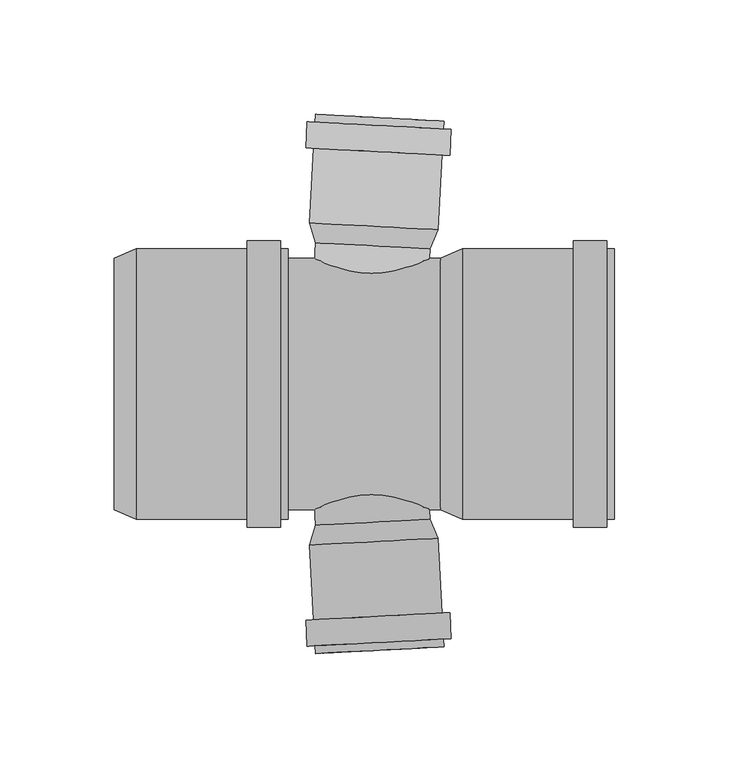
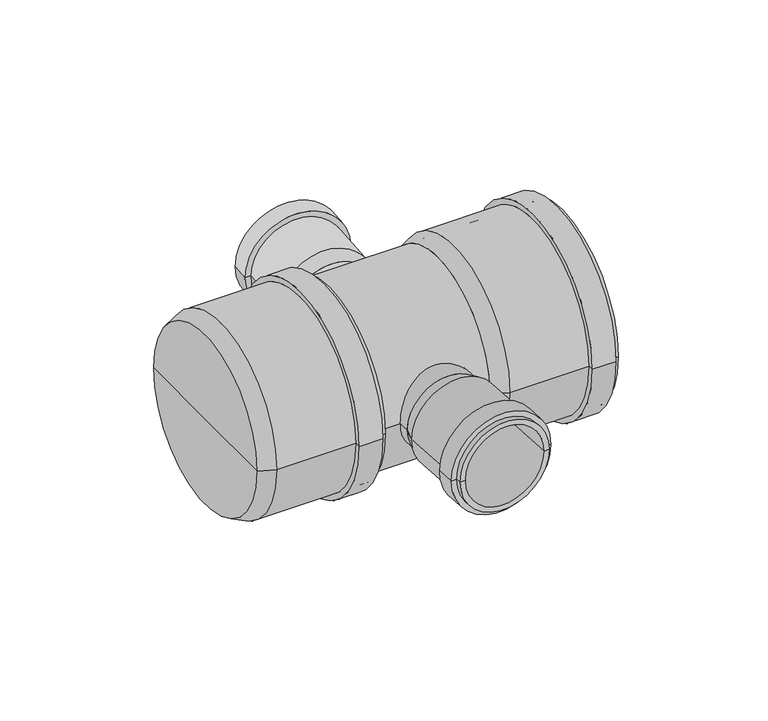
"""IFC4 building model written with IfcOpenShell, lengths in millimetres: pipe fitting geometry, pf_HTDA : pf_HTDA."""

from ifc_helpers import new_model, si_unit, point, frame, origin, origin_2d, place, context, project, spatial, polyline, circle_curve, trimmed, segment, composite_curve, outline, extrude, source, transform, mapped, element, save
from ifc_brep_helpers import plane_surface, cylinder_surface, revolved_surface, advanced_brep


def pipe_fitting_f0e1eda1(model_context):
    return source(origin(), model_context, "Body", "SolidModel", [
        advanced_brep(
        [(28.1320637, 59.1086879, 0.0), (-21.799413, 61.7254858, 0.0), (-24.4503089, 70.3760783, 0.0), (31.6726709, 67.4347975, 0.0), (3.1663254, 60.4170869, 0.0), (34.1586288, 114.8697004, 0.0), (-21.964351, 117.8109812, 0.0), (-18.8685995, 117.6487397, 0.0), (31.0628773, 115.0319419, 0.0), (33.9806866, 111.47436, 0.0), (-22.1422933, 114.4156408, 0.0), (37.376027, 111.2964178, 0.0), (-25.5376337, 114.593583, 0.0), (36.7793971, 99.9120411, 0.0), (-26.1342636, 103.2092063, 0.0), (33.3840567, 100.0899833, 0.0), (-22.7389232, 103.0312641, 0.0), (28.5769193, 67.597039, 0.0), (-21.3545574, 70.2138368, 0.0), (3.611181, 68.9054379, 0.0)],
        [
            (0, 1, circle_curve(frame((3.1663254, 60.4170869, 0.0), z_axis=(0.05233595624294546, 0.9986295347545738, 0.0), x_axis=(-0.9986295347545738, 0.05233595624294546, 0.0)), 25.0)),
            (1, 2),
            (2, 3, circle_curve(frame((3.611181, 68.9054379, 0.0), z_axis=(-0.05233595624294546, -0.9986295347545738, 0.0), x_axis=(-0.9986295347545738, 0.05233595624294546, 0.0)), 28.1)),
            (3, 0),
            (1, 0, circle_curve(frame((3.1663254, 60.4170869, 0.0), z_axis=(0.05233595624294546, 0.9986295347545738, 0.0), x_axis=(-0.9986295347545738, 0.05233595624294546, 0.0)), 25.0)),
            (3, 2, circle_curve(frame((3.611181, 68.9054379, 0.0), z_axis=(-0.05233595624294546, -0.9986295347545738, 0.0), x_axis=(-0.9986295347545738, 0.05233595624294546, 0.0)), 28.1)),
            (4, 1),
            (0, 4),
            (5, 6, circle_curve(frame((6.0971389, 116.3403408, 0.0), z_axis=(0.05233595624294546, 0.9986295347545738, 0.0), x_axis=(-0.9986295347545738, 0.05233595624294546, 0.0)), 28.1)),
            (6, 7),
            (7, 8, circle_curve(frame((6.0971389, 116.3403408, 0.0), z_axis=(-0.05233595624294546, -0.9986295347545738, 0.0), x_axis=(-0.9986295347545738, 0.05233595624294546, 0.0)), 25.0)),
            (8, 5),
            (6, 5, circle_curve(frame((6.0971389, 116.3403408, 0.0), z_axis=(0.05233595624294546, 0.9986295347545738, 0.0), x_axis=(-0.9986295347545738, 0.05233595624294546, 0.0)), 28.1)),
            (8, 7, circle_curve(frame((6.0971389, 116.3403408, 0.0), z_axis=(-0.05233595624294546, -0.9986295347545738, 0.0), x_axis=(-0.9986295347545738, 0.05233595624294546, 0.0)), 25.0)),
            (9, 10, circle_curve(frame((5.9191967, 112.9450004, 0.0), z_axis=(0.05233595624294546, 0.9986295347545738, 0.0), x_axis=(-0.9986295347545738, 0.05233595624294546, 0.0)), 28.1)),
            (10, 6),
            (5, 9),
            (10, 9, circle_curve(frame((5.9191967, 112.9450004, 0.0), z_axis=(0.05233595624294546, 0.9986295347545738, 0.0), x_axis=(-0.9986295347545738, 0.05233595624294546, 0.0)), 28.1)),
            (11, 12, circle_curve(frame((5.9191967, 112.9450004, 0.0), z_axis=(0.05233595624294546, 0.9986295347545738, 0.0), x_axis=(-0.9986295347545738, 0.05233595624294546, 0.0)), 31.5)),
            (12, 10),
            (9, 11),
            (12, 11, circle_curve(frame((5.9191967, 112.9450004, 0.0), z_axis=(0.05233595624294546, 0.9986295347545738, 0.0), x_axis=(-0.9986295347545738, 0.05233595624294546, 0.0)), 31.5)),
            (13, 14, circle_curve(frame((5.3225667, 101.5606237, 0.0), z_axis=(0.05233595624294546, 0.9986295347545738, 0.0), x_axis=(-0.9986295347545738, 0.05233595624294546, 0.0)), 31.5)),
            (14, 12),
            (11, 13),
            (14, 13, circle_curve(frame((5.3225667, 101.5606237, 0.0), z_axis=(0.05233595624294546, 0.9986295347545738, 0.0), x_axis=(-0.9986295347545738, 0.05233595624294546, 0.0)), 31.5)),
            (15, 16, circle_curve(frame((5.3225667, 101.5606237, 0.0), z_axis=(0.05233595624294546, 0.9986295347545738, 0.0), x_axis=(-0.9986295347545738, 0.05233595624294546, 0.0)), 28.1)),
            (16, 14),
            (13, 15),
            (16, 15, circle_curve(frame((5.3225667, 101.5606237, 0.0), z_axis=(0.05233595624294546, 0.9986295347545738, 0.0), x_axis=(-0.9986295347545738, 0.05233595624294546, 0.0)), 28.1)),
            (2, 16),
            (15, 3),
            (17, 18, circle_curve(frame((3.611181, 68.9054379, 0.0), z_axis=(0.05233595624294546, 0.9986295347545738, 0.0), x_axis=(-0.9986295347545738, 0.05233595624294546, 0.0)), 25.0)),
            (18, 19),
            (19, 17),
            (18, 17, circle_curve(frame((3.611181, 68.9054379, 0.0), z_axis=(0.05233595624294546, 0.9986295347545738, 0.0), x_axis=(-0.9986295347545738, 0.05233595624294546, 0.0)), 25.0)),
            (7, 18),
            (17, 8),
        ],
        [
            revolved_surface(polyline([(-24.4503089, 70.3760783, 0.0), (-21.799413, 61.7254858, 0.0)]), (3.1663254, 60.4170869, 0.0), (-0.05233595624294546, -0.9986295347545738, 0.0)),
            plane_surface(frame((3.1663254, 60.4170869, 0.0), z_axis=(-0.05233595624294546, -0.9986295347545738, 0.0), x_axis=(-0.9986295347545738, 0.05233595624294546, 0.0))),
            plane_surface(frame((6.0971389, 116.3403408, 0.0), z_axis=(0.05233595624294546, 0.9986295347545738, 0.0), x_axis=(-0.9986295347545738, 0.05233595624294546, 0.0))),
            cylinder_surface(frame((3.1663254, 60.4170869, 0.0), z_axis=(-0.05233595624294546, -0.9986295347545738, 0.0), x_axis=(-0.9986295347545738, 0.05233595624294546, 0.0)), 28.1),
            plane_surface(frame((5.9191967, 112.9450004, 0.0), z_axis=(0.05233595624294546, 0.9986295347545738, 0.0), x_axis=(-0.9986295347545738, 0.05233595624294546, 0.0))),
            cylinder_surface(frame((3.1663254, 60.4170869, 0.0), z_axis=(-0.05233595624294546, -0.9986295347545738, 0.0), x_axis=(-0.9986295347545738, 0.05233595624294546, 0.0)), 31.5),
            plane_surface(frame((5.3225667, 101.5606237, 0.0), z_axis=(-0.05233595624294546, -0.9986295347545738, 0.0), x_axis=(-0.9986295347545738, 0.05233595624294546, 0.0))),
            plane_surface(frame((3.611181, 68.9054379, 0.0), z_axis=(0.05233595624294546, 0.9986295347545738, 0.0), x_axis=(-0.9986295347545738, 0.05233595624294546, 0.0))),
            revolved_surface(polyline([(-21.35455734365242, 70.21383679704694, 0.0), (-18.868599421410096, 117.64873971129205, 0.0)]), (3.1663254, 60.4170869, 0.0), (-0.05233595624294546, -0.9986295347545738, 0.0)),
        ],
        [
            (0, [[1, 2, 3, 4]]),
            (0, [[5, -4, 6, -2]]),
            (1, [[7, -1, 8]]),
            (1, [[-8, -5, -7]]),
            (2, [[9, 10, 11, 12]]),
            (2, [[13, -12, 14, -10]]),
            (3, [[15, 16, -9, 17]]),
            (3, [[18, -17, -13, -16]]),
            (4, [[19, 20, -15, 21]]),
            (4, [[22, -21, -18, -20]]),
            (5, [[23, 24, -19, 25]]),
            (5, [[26, -25, -22, -24]]),
            (6, [[27, 28, -23, 29]]),
            (6, [[30, -29, -26, -28]]),
            (3, [[-3, 31, -27, 32]]),
            (3, [[-6, -32, -30, -31]]),
            (7, [[33, 34, 35]]),
            (7, [[36, -35, -34]]),
            (8, [[-11, 37, -33, 38]]),
            (8, [[-14, -38, -36, -37]]),
        ],
    ),
        advanced_brep(
        [(-21.799413, -61.7254858, 0.0), (28.1320637, -59.1086879, 0.0), (31.6726709, -67.4347975, 0.0), (-24.4503089, -70.3760783, 0.0), (3.1663254, -60.4170869, 0.0), (-21.964351, -117.8109812, 0.0), (34.1586288, -114.8697004, 0.0), (31.0628773, -115.0319419, 0.0), (-18.8685995, -117.6487397, 0.0), (-22.1422933, -114.4156408, 0.0), (33.9806866, -111.47436, 0.0), (-25.5376337, -114.593583, 0.0), (37.376027, -111.2964178, 0.0), (-26.1342636, -103.2092063, 0.0), (36.7793971, -99.9120411, 0.0), (-22.7389232, -103.0312641, 0.0), (33.3840567, -100.0899833, 0.0), (-21.3545574, -70.2138368, 0.0), (28.5769193, -67.597039, 0.0), (3.611181, -68.9054379, 0.0)],
        [
            (0, 1, circle_curve(frame((3.1663254, -60.4170869, 0.0), z_axis=(0.05233595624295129, -0.9986295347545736, 0.0), x_axis=(0.9986295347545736, 0.05233595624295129, 0.0)), 25.0)),
            (1, 2),
            (2, 3, circle_curve(frame((3.611181, -68.9054379, 0.0), z_axis=(-0.05233595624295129, 0.9986295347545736, 0.0), x_axis=(0.9986295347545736, 0.05233595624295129, 0.0)), 28.1)),
            (3, 0),
            (1, 0, circle_curve(frame((3.1663254, -60.4170869, 0.0), z_axis=(0.05233595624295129, -0.9986295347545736, 0.0), x_axis=(0.9986295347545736, 0.05233595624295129, 0.0)), 25.0)),
            (3, 2, circle_curve(frame((3.611181, -68.9054379, 0.0), z_axis=(-0.05233595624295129, 0.9986295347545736, 0.0), x_axis=(0.9986295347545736, 0.05233595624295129, 0.0)), 28.1)),
            (4, 1),
            (0, 4),
            (5, 6, circle_curve(frame((6.0971389, -116.3403408, 0.0), z_axis=(0.05233595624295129, -0.9986295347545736, 0.0), x_axis=(0.9986295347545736, 0.05233595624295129, 0.0)), 28.1)),
            (6, 7),
            (7, 8, circle_curve(frame((6.0971389, -116.3403408, 0.0), z_axis=(-0.05233595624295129, 0.9986295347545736, 0.0), x_axis=(0.9986295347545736, 0.05233595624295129, 0.0)), 25.0)),
            (8, 5),
            (6, 5, circle_curve(frame((6.0971389, -116.3403408, 0.0), z_axis=(0.05233595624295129, -0.9986295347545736, 0.0), x_axis=(0.9986295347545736, 0.05233595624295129, 0.0)), 28.1)),
            (8, 7, circle_curve(frame((6.0971389, -116.3403408, 0.0), z_axis=(-0.05233595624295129, 0.9986295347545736, 0.0), x_axis=(0.9986295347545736, 0.05233595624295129, 0.0)), 25.0)),
            (9, 10, circle_curve(frame((5.9191967, -112.9450004, 0.0), z_axis=(0.05233595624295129, -0.9986295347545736, 0.0), x_axis=(0.9986295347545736, 0.05233595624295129, 0.0)), 28.1)),
            (10, 6),
            (5, 9),
            (10, 9, circle_curve(frame((5.9191967, -112.9450004, 0.0), z_axis=(0.05233595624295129, -0.9986295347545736, 0.0), x_axis=(0.9986295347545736, 0.05233595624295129, 0.0)), 28.1)),
            (11, 12, circle_curve(frame((5.9191967, -112.9450004, 0.0), z_axis=(0.05233595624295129, -0.9986295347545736, 0.0), x_axis=(0.9986295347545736, 0.05233595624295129, 0.0)), 31.5)),
            (12, 10),
            (9, 11),
            (12, 11, circle_curve(frame((5.9191967, -112.9450004, 0.0), z_axis=(0.05233595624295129, -0.9986295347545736, 0.0), x_axis=(0.9986295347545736, 0.05233595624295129, 0.0)), 31.5)),
            (13, 14, circle_curve(frame((5.3225667, -101.5606237, 0.0), z_axis=(0.05233595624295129, -0.9986295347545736, 0.0), x_axis=(0.9986295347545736, 0.05233595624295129, 0.0)), 31.5)),
            (14, 12),
            (11, 13),
            (14, 13, circle_curve(frame((5.3225667, -101.5606237, 0.0), z_axis=(0.05233595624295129, -0.9986295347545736, 0.0), x_axis=(0.9986295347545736, 0.05233595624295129, 0.0)), 31.5)),
            (15, 16, circle_curve(frame((5.3225667, -101.5606237, 0.0), z_axis=(0.05233595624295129, -0.9986295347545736, 0.0), x_axis=(0.9986295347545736, 0.05233595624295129, 0.0)), 28.1)),
            (16, 14),
            (13, 15),
            (16, 15, circle_curve(frame((5.3225667, -101.5606237, 0.0), z_axis=(0.05233595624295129, -0.9986295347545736, 0.0), x_axis=(0.9986295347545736, 0.05233595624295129, 0.0)), 28.1)),
            (2, 16),
            (15, 3),
            (17, 18, circle_curve(frame((3.611181, -68.9054379, 0.0), z_axis=(0.05233595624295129, -0.9986295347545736, 0.0), x_axis=(0.9986295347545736, 0.05233595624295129, 0.0)), 25.0)),
            (18, 19),
            (19, 17),
            (18, 17, circle_curve(frame((3.611181, -68.9054379, 0.0), z_axis=(0.05233595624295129, -0.9986295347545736, 0.0), x_axis=(0.9986295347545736, 0.05233595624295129, 0.0)), 25.0)),
            (7, 18),
            (17, 8),
        ],
        [
            revolved_surface(polyline([(31.6726709, -67.4347975, 0.0), (28.1320637, -59.1086879, 0.0)]), (3.1663254, -60.4170869, 0.0), (-0.05233595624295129, 0.9986295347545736, 0.0)),
            plane_surface(frame((3.1663254, -60.4170869, 0.0), z_axis=(-0.05233595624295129, 0.9986295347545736, 0.0), x_axis=(0.9986295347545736, 0.05233595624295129, 0.0))),
            plane_surface(frame((6.0971389, -116.3403408, 0.0), z_axis=(0.05233595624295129, -0.9986295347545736, 0.0), x_axis=(0.9986295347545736, 0.05233595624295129, 0.0))),
            cylinder_surface(frame((3.1663254, -60.4170869, 0.0), z_axis=(-0.05233595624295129, 0.9986295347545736, 0.0), x_axis=(0.9986295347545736, 0.05233595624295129, 0.0)), 28.1),
            plane_surface(frame((5.9191967, -112.9450004, 0.0), z_axis=(0.05233595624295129, -0.9986295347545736, 0.0), x_axis=(0.9986295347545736, 0.05233595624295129, 0.0))),
            cylinder_surface(frame((3.1663254, -60.4170869, 0.0), z_axis=(-0.05233595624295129, 0.9986295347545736, 0.0), x_axis=(0.9986295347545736, 0.05233595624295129, 0.0)), 31.5),
            plane_surface(frame((5.3225667, -101.5606237, 0.0), z_axis=(-0.05233595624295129, 0.9986295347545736, 0.0), x_axis=(0.9986295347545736, 0.05233595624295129, 0.0))),
            plane_surface(frame((3.611181, -68.9054379, 0.0), z_axis=(0.05233595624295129, -0.9986295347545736, 0.0), x_axis=(0.9986295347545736, 0.05233595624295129, 0.0))),
            revolved_surface(polyline([(28.57691939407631, -67.59703898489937, 0.0), (31.062877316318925, -115.03194189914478, 0.0)]), (3.1663254, -60.4170869, 0.0), (-0.05233595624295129, 0.9986295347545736, 0.0)),
        ],
        [
            (0, [[1, 2, 3, 4]]),
            (0, [[5, -4, 6, -2]]),
            (1, [[7, -1, 8]]),
            (1, [[-8, -5, -7]]),
            (2, [[9, 10, 11, 12]]),
            (2, [[13, -12, 14, -10]]),
            (3, [[15, 16, -9, 17]]),
            (3, [[18, -17, -13, -16]]),
            (4, [[19, 20, -15, 21]]),
            (4, [[22, -21, -18, -20]]),
            (5, [[23, 24, -19, 25]]),
            (5, [[26, -25, -22, -24]]),
            (6, [[27, 28, -23, 29]]),
            (6, [[30, -29, -26, -28]]),
            (3, [[-3, 31, -27, 32]]),
            (3, [[-6, -32, -30, -31]]),
            (7, [[33, 34, 35]]),
            (7, [[36, -35, -34]]),
            (8, [[-11, 37, -33, 38]]),
            (8, [[-14, -38, -36, -37]]),
        ],
    ),
        advanced_brep(
        [(32.8, -55.0, 0.0), (32.8, 55.0, 0.0), (42.3, 59.1, 0.0), (42.3, -59.1, 0.0), (32.8, 0.0, 0.0), (108.8, -59.1, 0.0), (108.8, 59.1, 0.0), (108.8, 55.0, 0.0), (108.8, -55.0, 0.0), (105.4, -59.1, 0.0), (105.4, 59.1, 0.0), (105.4, -62.5, 0.0), (105.4, 62.5, 0.0), (90.9, -62.5, 0.0), (90.9, 62.5, 0.0), (90.9, -59.1, 0.0), (90.9, 59.1, 0.0), (42.3, -55.0, 0.0), (42.3, 55.0, 0.0), (42.3, 0.0, 0.0)],
        [
            (0, 1, circle_curve(frame((32.8, 0.0, 0.0), z_axis=(1.0, 0.0, 0.0), x_axis=(0.0, 1.0, 0.0)), 55.0)),
            (1, 2),
            (2, 3, circle_curve(frame((42.3, 0.0, 0.0), z_axis=(-1.0, 0.0, 0.0), x_axis=(0.0, 1.0, 0.0)), 59.1)),
            (3, 0),
            (1, 0, circle_curve(frame((32.8, 0.0, 0.0), z_axis=(1.0, 0.0, 0.0), x_axis=(0.0, 1.0, 0.0)), 55.0)),
            (3, 2, circle_curve(frame((42.3, 0.0, 0.0), z_axis=(-1.0, 0.0, 0.0), x_axis=(0.0, 1.0, 0.0)), 59.1)),
            (4, 1),
            (0, 4),
            (5, 6, circle_curve(frame((108.8, 0.0, 0.0), z_axis=(1.0, 0.0, 0.0), x_axis=(0.0, 1.0, 0.0)), 59.1)),
            (6, 7),
            (7, 8, circle_curve(frame((108.8, 0.0, 0.0), z_axis=(-1.0, 0.0, 0.0), x_axis=(0.0, 1.0, 0.0)), 55.0)),
            (8, 5),
            (6, 5, circle_curve(frame((108.8, 0.0, 0.0), z_axis=(1.0, 0.0, 0.0), x_axis=(0.0, 1.0, 0.0)), 59.1)),
            (8, 7, circle_curve(frame((108.8, 0.0, 0.0), z_axis=(-1.0, 0.0, 0.0), x_axis=(0.0, 1.0, 0.0)), 55.0)),
            (9, 10, circle_curve(frame((105.4, 0.0, 0.0), z_axis=(1.0, 0.0, 0.0), x_axis=(0.0, 1.0, 0.0)), 59.1)),
            (10, 6),
            (5, 9),
            (10, 9, circle_curve(frame((105.4, 0.0, 0.0), z_axis=(1.0, 0.0, 0.0), x_axis=(0.0, 1.0, 0.0)), 59.1)),
            (11, 12, circle_curve(frame((105.4, 0.0, 0.0), z_axis=(1.0, 0.0, 0.0), x_axis=(0.0, 1.0, 0.0)), 62.5)),
            (12, 10),
            (9, 11),
            (12, 11, circle_curve(frame((105.4, 0.0, 0.0), z_axis=(1.0, 0.0, 0.0), x_axis=(0.0, 1.0, 0.0)), 62.5)),
            (13, 14, circle_curve(frame((90.9, 0.0, 0.0), z_axis=(1.0, 0.0, 0.0), x_axis=(0.0, 1.0, 0.0)), 62.5)),
            (14, 12),
            (11, 13),
            (14, 13, circle_curve(frame((90.9, 0.0, 0.0), z_axis=(1.0, 0.0, 0.0), x_axis=(0.0, 1.0, 0.0)), 62.5)),
            (15, 16, circle_curve(frame((90.9, 0.0, 0.0), z_axis=(1.0, 0.0, 0.0), x_axis=(0.0, 1.0, 0.0)), 59.1)),
            (16, 14),
            (13, 15),
            (16, 15, circle_curve(frame((90.9, 0.0, 0.0), z_axis=(1.0, 0.0, 0.0), x_axis=(0.0, 1.0, 0.0)), 59.1)),
            (2, 16),
            (15, 3),
            (17, 18, circle_curve(frame((42.3, 0.0, 0.0), z_axis=(1.0, 0.0, 0.0), x_axis=(0.0, 1.0, 0.0)), 55.0)),
            (18, 19),
            (19, 17),
            (18, 17, circle_curve(frame((42.3, 0.0, 0.0), z_axis=(1.0, 0.0, 0.0), x_axis=(0.0, 1.0, 0.0)), 55.0)),
            (7, 18),
            (17, 8),
        ],
        [
            revolved_surface(polyline([(42.3, 59.1, 0.0), (32.8, 55.0, 0.0)]), (32.8, 0.0, 0.0), (-1.0, 0.0, 0.0)),
            plane_surface(frame((32.8, 0.0, 0.0), z_axis=(-1.0, 0.0, 0.0), x_axis=(0.0, 1.0, 0.0))),
            plane_surface(frame((108.8, 0.0, 0.0), z_axis=(1.0, 0.0, 0.0), x_axis=(0.0, 1.0, 0.0))),
            cylinder_surface(frame((32.8, 0.0, 0.0), z_axis=(-1.0, 0.0, 0.0), x_axis=(0.0, 1.0, 0.0)), 59.1),
            plane_surface(frame((105.4, 0.0, 0.0), z_axis=(1.0, 0.0, 0.0), x_axis=(0.0, 1.0, 0.0))),
            cylinder_surface(frame((32.8, 0.0, 0.0), z_axis=(-1.0, 0.0, 0.0), x_axis=(0.0, 1.0, 0.0)), 62.5),
            plane_surface(frame((90.9, 0.0, 0.0), z_axis=(-1.0, 0.0, 0.0), x_axis=(0.0, 1.0, 0.0))),
            plane_surface(frame((42.3, 0.0, 0.0), z_axis=(1.0, 0.0, 0.0), x_axis=(0.0, 1.0, 0.0))),
            revolved_surface(polyline([(42.3, 55.0, 0.0), (108.8, 55.0, 0.0)]), (32.8, 0.0, 0.0), (-1.0, 0.0, 0.0)),
        ],
        [
            (0, [[1, 2, 3, 4]]),
            (0, [[5, -4, 6, -2]]),
            (1, [[7, -1, 8]]),
            (1, [[-8, -5, -7]]),
            (2, [[9, 10, 11, 12]]),
            (2, [[13, -12, 14, -10]]),
            (3, [[15, 16, -9, 17]]),
            (3, [[18, -17, -13, -16]]),
            (4, [[19, 20, -15, 21]]),
            (4, [[22, -21, -18, -20]]),
            (5, [[23, 24, -19, 25]]),
            (5, [[26, -25, -22, -24]]),
            (6, [[27, 28, -23, 29]]),
            (6, [[30, -29, -26, -28]]),
            (3, [[-3, 31, -27, 32]]),
            (3, [[-6, -32, -30, -31]]),
            (7, [[33, 34, 35]]),
            (7, [[36, -35, -34]]),
            (8, [[-11, 37, -33, 38]]),
            (8, [[-14, -38, -36, -37]]),
        ],
    ),
        advanced_brep(
        [(-109.9, -55.0, 0.0), (-109.9, 55.0, 0.0), (-100.4, 59.1, 0.0), (-100.4, -59.1, 0.0), (-109.9, 0.0, 0.0), (-33.9, -59.1, 0.0), (-33.9, 59.1, 0.0), (-33.9, 55.0, 0.0), (-33.9, -55.0, 0.0), (-37.3, -59.1, 0.0), (-37.3, 59.1, 0.0), (-37.3, -62.5, 0.0), (-37.3, 62.5, 0.0), (-51.8, -62.5, 0.0), (-51.8, 62.5, 0.0), (-51.8, -59.1, 0.0), (-51.8, 59.1, 0.0), (-100.4, -55.0, 0.0), (-100.4, 55.0, 0.0), (-100.4, 0.0, 0.0)],
        [
            (0, 1, circle_curve(frame((-109.9, 0.0, 0.0), z_axis=(1.0, 0.0, 0.0), x_axis=(0.0, 1.0, 0.0)), 55.0)),
            (1, 2),
            (2, 3, circle_curve(frame((-100.4, 0.0, 0.0), z_axis=(-1.0, 0.0, 0.0), x_axis=(0.0, 1.0, 0.0)), 59.1)),
            (3, 0),
            (1, 0, circle_curve(frame((-109.9, 0.0, 0.0), z_axis=(1.0, 0.0, 0.0), x_axis=(0.0, 1.0, 0.0)), 55.0)),
            (3, 2, circle_curve(frame((-100.4, 0.0, 0.0), z_axis=(-1.0, 0.0, 0.0), x_axis=(0.0, 1.0, 0.0)), 59.1)),
            (4, 1),
            (0, 4),
            (5, 6, circle_curve(frame((-33.9, 0.0, 0.0), z_axis=(1.0, 0.0, 0.0), x_axis=(0.0, 1.0, 0.0)), 59.1)),
            (6, 7),
            (7, 8, circle_curve(frame((-33.9, 0.0, 0.0), z_axis=(-1.0, 0.0, 0.0), x_axis=(0.0, 1.0, 0.0)), 55.0)),
            (8, 5),
            (6, 5, circle_curve(frame((-33.9, 0.0, 0.0), z_axis=(1.0, 0.0, 0.0), x_axis=(0.0, 1.0, 0.0)), 59.1)),
            (8, 7, circle_curve(frame((-33.9, 0.0, 0.0), z_axis=(-1.0, 0.0, 0.0), x_axis=(0.0, 1.0, 0.0)), 55.0)),
            (9, 10, circle_curve(frame((-37.3, 0.0, 0.0), z_axis=(1.0, 0.0, 0.0), x_axis=(0.0, 1.0, 0.0)), 59.1)),
            (10, 6),
            (5, 9),
            (10, 9, circle_curve(frame((-37.3, 0.0, 0.0), z_axis=(1.0, 0.0, 0.0), x_axis=(0.0, 1.0, 0.0)), 59.1)),
            (11, 12, circle_curve(frame((-37.3, 0.0, 0.0), z_axis=(1.0, 0.0, 0.0), x_axis=(0.0, 1.0, 0.0)), 62.5)),
            (12, 10),
            (9, 11),
            (12, 11, circle_curve(frame((-37.3, 0.0, 0.0), z_axis=(1.0, 0.0, 0.0), x_axis=(0.0, 1.0, 0.0)), 62.5)),
            (13, 14, circle_curve(frame((-51.8, 0.0, 0.0), z_axis=(1.0, 0.0, 0.0), x_axis=(0.0, 1.0, 0.0)), 62.5)),
            (14, 12),
            (11, 13),
            (14, 13, circle_curve(frame((-51.8, 0.0, 0.0), z_axis=(1.0, 0.0, 0.0), x_axis=(0.0, 1.0, 0.0)), 62.5)),
            (15, 16, circle_curve(frame((-51.8, 0.0, 0.0), z_axis=(1.0, 0.0, 0.0), x_axis=(0.0, 1.0, 0.0)), 59.1)),
            (16, 14),
            (13, 15),
            (16, 15, circle_curve(frame((-51.8, 0.0, 0.0), z_axis=(1.0, 0.0, 0.0), x_axis=(0.0, 1.0, 0.0)), 59.1)),
            (2, 16),
            (15, 3),
            (17, 18, circle_curve(frame((-100.4, 0.0, 0.0), z_axis=(1.0, 0.0, 0.0), x_axis=(0.0, 1.0, 0.0)), 55.0)),
            (18, 19),
            (19, 17),
            (18, 17, circle_curve(frame((-100.4, 0.0, 0.0), z_axis=(1.0, 0.0, 0.0), x_axis=(0.0, 1.0, 0.0)), 55.0)),
            (7, 18),
            (17, 8),
        ],
        [
            revolved_surface(polyline([(-100.4, 59.1, 0.0), (-109.9, 55.0, 0.0)]), (-109.9, 0.0, 0.0), (-1.0, 0.0, 0.0)),
            plane_surface(frame((-109.9, 0.0, 0.0), z_axis=(-1.0, 0.0, 0.0), x_axis=(0.0, 1.0, 0.0))),
            plane_surface(frame((-33.9, 0.0, 0.0), z_axis=(1.0, 0.0, 0.0), x_axis=(0.0, 1.0, 0.0))),
            cylinder_surface(frame((-109.9, 0.0, 0.0), z_axis=(-1.0, 0.0, 0.0), x_axis=(0.0, 1.0, 0.0)), 59.1),
            plane_surface(frame((-37.3, 0.0, 0.0), z_axis=(1.0, 0.0, 0.0), x_axis=(0.0, 1.0, 0.0))),
            cylinder_surface(frame((-109.9, 0.0, 0.0), z_axis=(-1.0, 0.0, 0.0), x_axis=(0.0, 1.0, 0.0)), 62.5),
            plane_surface(frame((-51.8, 0.0, 0.0), z_axis=(-1.0, 0.0, 0.0), x_axis=(0.0, 1.0, 0.0))),
            plane_surface(frame((-100.4, 0.0, 0.0), z_axis=(1.0, 0.0, 0.0), x_axis=(0.0, 1.0, 0.0))),
            revolved_surface(polyline([(-100.4, 55.0, 0.0), (-33.900000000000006, 55.0, 0.0)]), (-109.9, 0.0, 0.0), (-1.0, 0.0, 0.0)),
        ],
        [
            (0, [[1, 2, 3, 4]]),
            (0, [[5, -4, 6, -2]]),
            (1, [[7, -1, 8]]),
            (1, [[-8, -5, -7]]),
            (2, [[9, 10, 11, 12]]),
            (2, [[13, -12, 14, -10]]),
            (3, [[15, 16, -9, 17]]),
            (3, [[18, -17, -13, -16]]),
            (4, [[19, 20, -15, 21]]),
            (4, [[22, -21, -18, -20]]),
            (5, [[23, 24, -19, 25]]),
            (5, [[26, -25, -22, -24]]),
            (6, [[27, 28, -23, 29]]),
            (6, [[30, -29, -26, -28]]),
            (3, [[-3, 31, -27, 32]]),
            (3, [[-6, -32, -30, -31]]),
            (7, [[33, 34, 35]]),
            (7, [[36, -35, -34]]),
            (8, [[-11, 37, -33, 38]]),
            (8, [[-14, -38, -36, -37]]),
        ],
    ),
        extrude(outline(composite_curve([segment(trimmed(circle_curve(origin_2d(), 25.0), [point((0.0, 25.0))], [point((0.0, -25.0))], False, "CARTESIAN"), True, "CONTINUOUS"), segment(trimmed(circle_curve(origin_2d(), 25.0), [point((0.0, -25.0))], [point((0.0, 25.0))], False, "CARTESIAN"), True, "CONTINUOUS")], self_intersect=False)), frame((0.0, 0.0, 0.0), z_axis=(0.052335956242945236, 0.9986295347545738, 0.0), x_axis=(0.0, 0.0, 1.0)), (0.0, 0.0, 1.0), 60.5),
        extrude(outline(composite_curve([segment(trimmed(circle_curve(origin_2d(), 25.0), [point((0.0, -25.0))], [point((0.0, 24.9999999))], False, "CARTESIAN"), True, "CONTINUOUS"), segment(trimmed(circle_curve(origin_2d(), 25.0), [point((0.0, 24.9999999))], [point((0.0, -25.0))], False, "CARTESIAN"), True, "CONTINUOUS")], self_intersect=False)), frame((3.1663254, -60.4170869, 0.0), z_axis=(-0.052335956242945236, 0.9986295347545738, 0.0), x_axis=(0.0, 0.0, 1.0)), (0.0, 0.0, 1.0), 60.5),
        extrude(outline(composite_curve([segment(trimmed(circle_curve(origin_2d(), 55.0), [point((-55.0, 0.0))], [point((55.0, 0.0))], False, "CARTESIAN"), True, "CONTINUOUS"), segment(trimmed(circle_curve(origin_2d(), 55.0), [point((55.0, 0.0))], [point((-55.0, 0.0))], False, "CARTESIAN"), True, "CONTINUOUS")], self_intersect=False)), frame((-100.4, 0.0, 0.0), z_axis=(1.0, 0.0, 0.0), x_axis=(0.0, 1.0, 0.0)), (0.0, 0.0, 1.0), 133.2),
    ])


if __name__ == "__main__":
    model = new_model("IFC4")
    model_context = context("Model", 3, world=origin())
    ifc_project = project(units=[si_unit("LENGTHUNIT", "METRE", prefix="MILLI")], contexts=[model_context])
    site = spatial("IfcSite", under=ifc_project)
    building = spatial("IfcBuilding", under=site)
    placement = place(None, origin())
    pipe_fitting_shape = pipe_fitting_f0e1eda1(model_context)
    element("IfcPipeFitting", 1, ObjectType="pf_HTDA : pf_HTDA", at=placement, inside=building, context=model_context, shape_type="MappedRepresentation", body=[
        mapped(pipe_fitting_shape, transform((0.0, 0.0, 0.0), x_axis=(1.0, 0.0, 0.0), y_axis=(0.0, 1.0, 0.0), z_axis=(0.0, 0.0, 1.0))),
    ])
    save(model, "model.ifc")
